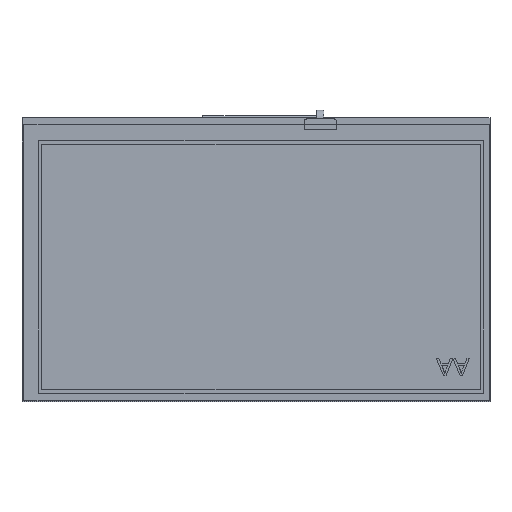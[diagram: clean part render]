
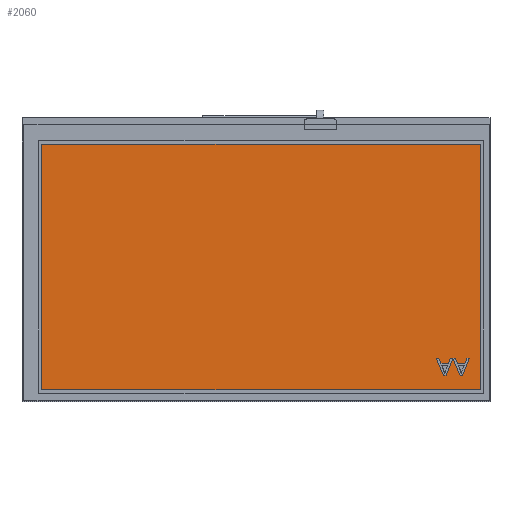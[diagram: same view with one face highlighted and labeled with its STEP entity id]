
A CAD part, top view. The second image highlights one B-rep face of the part: STEP entity #2060.
In plain terms, the highlighted planar face has unit normal (0, 0, 1).
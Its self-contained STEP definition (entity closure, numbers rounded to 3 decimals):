
#2060=ADVANCED_FACE('',(#2591),#2327,.T.);
#2327=PLANE('',#7027);
#2591=FACE_OUTER_BOUND('',#2879,.T.);
#2879=EDGE_LOOP('',(#3935,#3936,#3937,#3938));
#3935=ORIENTED_EDGE('',*,*,#5133,.T.);
#3936=ORIENTED_EDGE('',*,*,#5137,.T.);
#3937=ORIENTED_EDGE('',*,*,#5140,.T.);
#3938=ORIENTED_EDGE('',*,*,#5142,.T.);
#4545=VERTEX_POINT('',#9360);
#4546=VERTEX_POINT('',#9362);
#4548=VERTEX_POINT('',#9368);
#4550=VERTEX_POINT('',#9374);
#5133=EDGE_CURVE('',#4546,#4545,#5743,.T.);
#5137=EDGE_CURVE('',#4545,#4548,#5747,.T.);
#5140=EDGE_CURVE('',#4548,#4550,#5750,.T.);
#5142=EDGE_CURVE('',#4550,#4546,#5752,.T.);
#5743=LINE('',#9361,#6333);
#5747=LINE('',#9369,#6337);
#5750=LINE('',#9375,#6340);
#5752=LINE('',#9378,#6342);
#6333=VECTOR('',#8045,1.);
#6337=VECTOR('',#8051,1.);
#6340=VECTOR('',#8056,1.);
#6342=VECTOR('',#8060,1.);
#7027=AXIS2_PLACEMENT_3D('',#9380,#8063,#8064);
#8045=DIRECTION('',(0.,-1.,0.));
#8051=DIRECTION('',(1.,0.,0.));
#8056=DIRECTION('',(0.,1.,0.));
#8060=DIRECTION('',(-1.,0.,0.));
#8063=DIRECTION('',(0.,0.,1.));
#8064=DIRECTION('',(-1.,0.,0.));
#9360=CARTESIAN_POINT('',(-55.55,-55.35,5.42));
#9361=CARTESIAN_POINT('',(-55.55,31.15,5.42));
#9362=CARTESIAN_POINT('',(-55.55,31.15,5.42));
#9368=CARTESIAN_POINT('',(99.05,-55.35,5.42));
#9369=CARTESIAN_POINT('',(-55.55,-55.35,5.42));
#9374=CARTESIAN_POINT('',(99.05,31.15,5.42));
#9375=CARTESIAN_POINT('',(99.05,-55.35,5.42));
#9378=CARTESIAN_POINT('',(99.05,31.15,5.42));
#9380=CARTESIAN_POINT('',(0.,0.,5.42));
